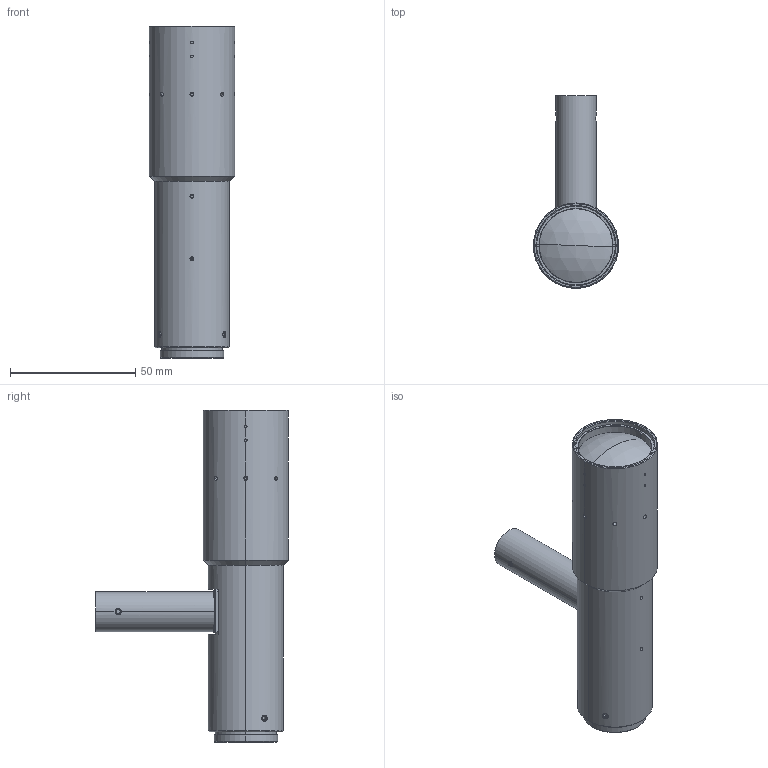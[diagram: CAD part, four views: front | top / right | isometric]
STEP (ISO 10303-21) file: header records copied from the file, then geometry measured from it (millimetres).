
FILE_DESCRIPTION (( 'STEP AP203' ), '1' );
FILE_NAME ('3d_MML4-HR80D-NSW_a001.STEP', '2026-06-03T02:14:36', ( '' ), ( '' ), 'SwSTEP 2.0', 'SolidWorks 2025', '' );
FILE_SCHEMA (( 'CONFIG_CONTROL_DESIGN' ));
Length unit declared in the file: millimetre
Products named in the file (1): 3d_MML4-HR80D-NSW_a001
Bounding box: 34 x 77 x 132.59 mm (x, y, z)
Volume: 106584.8 mm3; surface area: 20399.8 mm2
Topology: 1 solids, 5 shells, 529 faces, 1240 edges, 748 vertices
Faces by surface type: plane 219, cone 172, cylinder 110, torus 16, sphere 12
Entity records: 16241 total; most frequent: CARTESIAN_POINT 4286, DIRECTION 2514, ORIENTED_EDGE 2464, EDGE_CURVE 1232, AXIS2_PLACEMENT_3D 1024, VERTEX_POINT 748, EDGE_LOOP 574, ADVANCED_FACE 529
